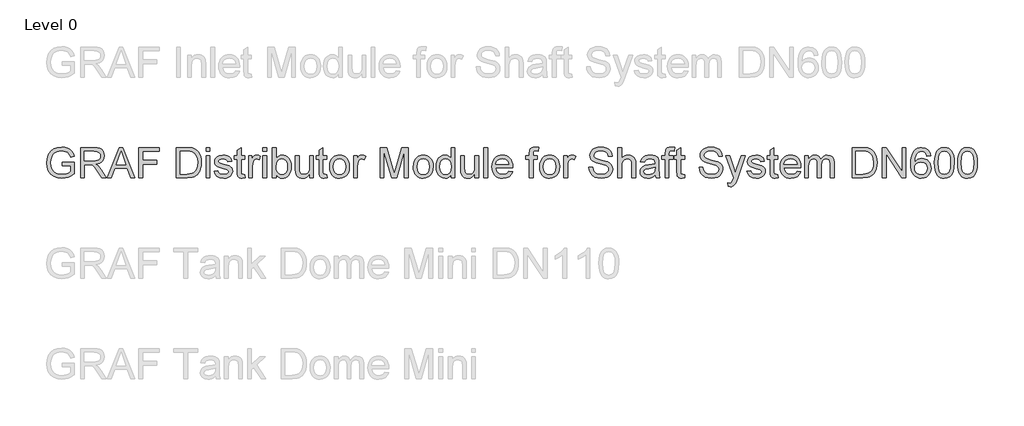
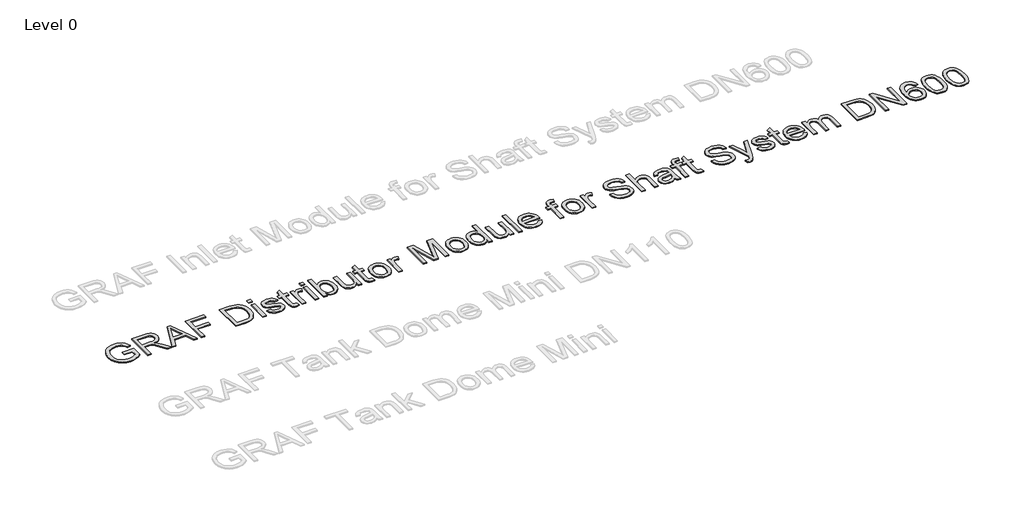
# One storey, part 11 of 25: 1 proxy.
"""IFC4 building model written with IfcOpenShell, lengths in millimetres."""

from ifc_helpers import new_model, si_unit, origin, origin_with_axes, place, context, project, spatial, polyline, outline, extrude, element, save

model = new_model("IFC4")

# Units and contexts
model_context = context("Model", 3, world=origin())
ifc_project = project(units=[si_unit("LENGTHUNIT", "METRE", prefix="MILLI")], contexts=[model_context])

# Site, building, storey
site = spatial("IfcSite", under=ifc_project)
building = spatial("IfcBuilding", under=site)
storey = spatial("IfcBuildingStorey", under=building, Name="Level 0", Elevation=0.0)

# Proxy
placement = place(None, origin())
element("IfcBuildingElementProxy", 1, Name="300mm Arial", ObjectType="300mm Arial", at=placement, inside=storey, context=model_context, shape_type="SweptSolid", body=[
    extrude(outline(polyline([(-15240.9940387, -83.2545597), (-15240.9940387, -45.5834434), (-15118.5629107, -45.5834434), (-15118.5629107, -158.2289103), (-15148.3153671, -178.9222726), (-15179.0059225, -193.7663111), (-15210.5610007, -202.7058436), (-15242.9070251, -205.6856877), (-15285.1674693, -200.949207), (-15323.3628175, -186.739765), (-15355.0926395, -163.5540022), (-15377.9565055, -131.8885595), (-15391.7796715, -93.9047435), (-15396.3873935, -51.7638609), (-15391.7980656, -9.3194757), (-15378.0300819, 30.1634594), (-15355.6536596, 63.282036), (-15325.2390156, 86.6333457), (-15288.1932987, 100.4841028), (-15245.9236575, 105.1010218), (-15214.8928112, 102.4246803), (-15186.9889618, 94.3956557), (-15163.4904994, 81.5933623), (-15145.6758138, 64.5972141), (-15132.4964413, 42.5886738), (-15122.9039183, 14.7492038), (-15157.6319786, 4.9635427), (-15165.3850917, 24.8199734), (-15174.8120678, 39.8019677), (-15187.2832674, 51.0959449), (-15204.169051, 59.8883246), (-15224.3013932, 65.5445103), (-15246.5122687, 67.4299055), (-15272.5123287, 65.3973575), (-15294.7415982, 59.2997134), (-15313.1173039, 49.9003284), (-15327.5566722, 37.9625577), (-15346.9440533, 8.9366683), (-15355.7732212, -19.50061), (-15358.7162772, -50.2187566), (-15355.175413, -86.2436009), (-15344.5528204, -115.8856927), (-15327.1703961, -138.9334997), (-15303.3500369, -155.1754898), (-15275.4737787, -164.804801), (-15245.9236575, -168.0145714), (-15219.831627, -165.5957473), (-15194.3833899, -158.3392749), (-15172.2828791, -148.3420817), (-15156.234027, -137.701095), (-15156.234027, -83.2545597), (-15240.9940387, -83.2545597)])), origin_with_axes(), (0.0, 0.0, 1.0), 10.0),
    extrude(outline(polyline([(-15057.3473467, -200.9767982), (-15057.3473467, 100.3921323), (-14927.4850024, 100.3921323), (-14892.5821982, 98.3595842), (-14867.1891434, 92.2619402), (-14848.6294968, 81.0047511), (-14834.2269167, 63.4935682), (-14824.9838815, 41.7793334), (-14821.9028698, 17.912989), (-14827.0072325, -11.7750881), (-14842.3203206, -36.3863935), (-14853.9200997, -46.4157764), (-14868.3019865, -54.4310054), (-14905.4120827, -64.4190016), (-14884.0013506, -80.532233), (-14853.467145, -119.3069952), (-14803.2144645, -200.9767982), (-14846.9924219, -200.9767982), (-14886.2086426, -138.5104354), (-14914.5355562, -97.1604991), (-14934.4379722, -77.6259652), (-14952.3538253, -70.4522663), (-14974.2060158, -69.1278911), (-15019.6762304, -69.1278911), (-15019.6762304, -200.9767982), (-15057.3473467, -200.9767982)]), holes=[polyline([(-15019.6762304, -31.4567748), (-14935.3576771, -31.4567748), (-14911.1418448, -30.1232026), (-14892.3522719, -26.1224859), (-14878.2072092, -19.1879103), (-14867.9249074, -9.0527613), (-14861.6617165, 3.2069062), (-14859.5739861, 16.5150374), (-14863.5563087, 34.890743), (-14875.5032765, 49.6979933), (-14896.058683, 59.4652603), (-14925.8663217, 62.721016), (-15019.6762304, 62.721016), (-15019.6762304, -31.4567748)])]), origin_with_axes(), (0.0, 0.0, 1.0), 10.0),
    extrude(outline(polyline([(-14791.0743586, -200.9767982), (-14670.7769462, 100.3921323), (-14638.6976362, 100.3921323), (-14518.4002238, -200.9767982), (-14558.2050557, -200.9767982), (-14592.7123868, -106.7990074), (-14716.835772, -106.7990074), (-14751.2695268, -200.9767982), (-14791.0743586, -200.9767982)]), holes=[polyline([(-14703.003409, -69.1278911), (-14606.4711735, -69.1278911), (-14633.6208647, 4.9635427), (-14654.7372912, 62.721016), (-14673.499273, 11.4382658), (-14703.003409, -69.1278911)])]), origin_with_axes(), (0.0, 0.0, 1.0), 10.0),
    extrude(outline(polyline([(-14478.1539335, -200.9767982), (-14478.1539335, 100.3921323), (-14275.6716834, 100.3921323), (-14275.6716834, 62.721016), (-14440.4828172, 62.721016), (-14440.4828172, -26.7478853), (-14299.2161311, -26.7478853), (-14299.2161311, -64.4190016), (-14440.4828172, -64.4190016), (-14440.4828172, -200.9767982), (-14478.1539335, -200.9767982)])), origin_with_axes(), (0.0, 0.0, 1.0), 10.0),
    extrude(outline(polyline([(-14106.15166, -200.9767982), (-14106.15166, 100.3921323), (-14002.1882082, 100.3921323), (-13948.4038605, 96.0511247), (-13924.3811662, 87.6818093), (-13904.1108683, 74.4932398), (-13883.2703532, 51.5374033), (-13868.4263147, 22.9897605), (-13859.5419645, -10.5978657), (-13856.5805145, -48.6736522), (-13858.5854714, -81.0196766), (-13864.600342, -109.484546), (-13873.7606037, -133.7187724), (-13885.2017337, -153.372868), (-13898.3719091, -168.8882911), (-13912.719307, -180.7065002), (-13929.1912233, -189.4712888), (-13948.7349543, -195.8264502), (-13997.185013, -200.9767982), (-14106.15166, -200.9767982)]), holes=[polyline([(-14068.4805437, -163.3056819), (-14001.8203262, -163.3056819), (-13974.2475706, -161.9445185), (-13953.3334792, -157.8610283), (-13937.5513416, -151.2943347), (-13925.3744476, -142.4835609), (-13912.2870456, -126.1771915), (-13902.4553993, -105.069962), (-13896.3025729, -79.069902), (-13894.2516308, -48.085041), (-13898.2707416, -7.0294103), (-13910.328074, 23.2840661), (-13928.1427596, 44.106187), (-13949.4339301, 56.6877512), (-13971.1021796, 61.2126998), (-14002.8503958, 62.721016), (-14068.4805437, 62.721016), (-14068.4805437, -163.3056819)])]), origin_with_axes(), (0.0, 0.0, 1.0), 10.0),
    extrude(outline(polyline([(-13809.4916191, 62.721016), (-13809.4916191, 100.3921323), (-13771.8205028, 100.3921323), (-13771.8205028, 62.721016), (-13809.4916191, 62.721016)])), origin_with_axes(), (0.0, 0.0, 1.0), 10.0),
    extrude(outline(polyline([(-13809.4916191, -200.9767982), (-13809.4916191, 20.3410101), (-13771.8205028, 20.3410101), (-13771.8205028, -200.9767982), (-13809.4916191, -200.9767982)])), origin_with_axes(), (0.0, 0.0, 1.0), 10.0),
    extrude(outline(polyline([(-13729.440497, -135.0523446), (-13691.7693806, -130.3434551), (-13685.8280864, -146.4566865), (-13674.3317741, -158.3024867), (-13657.2068672, -165.5865502), (-13634.3797894, -168.0145714), (-13611.8286231, -165.7888853), (-13595.9729091, -159.1118271), (-13586.5919182, -149.4365307), (-13583.4649213, -138.2161298), (-13586.6103123, -128.6144097), (-13596.0464855, -121.293558), (-13634.8212478, -110.5514038), (-13691.5486515, -92.1205158), (-13705.9052463, -82.8590866), (-13716.3071097, -70.5994191), (-13722.625483, -56.1232626), (-13724.7316074, -40.2123663), (-13723.0393502, -25.6166481), (-13717.9625787, -12.1429701), (-13709.9611453, -0.324761), (-13699.4949025, 9.3045503), (-13675.5457847, 20.4513747), (-13643.1353809, 25.0498997), (-13618.6160459, 23.2012926), (-13597.2972843, 17.6554716), (-13580.1539833, 8.9550624), (-13568.1610303, -2.357309), (-13560.2147792, -17.118574), (-13555.211584, -36.1656643), (-13592.8827003, -40.8745539), (-13597.6375751, -29.0195566), (-13607.0461572, -20.0892211), (-13621.2004169, -14.4882178), (-13640.1923249, -12.6212166), (-13661.8237862, -14.4054443), (-13676.2447605, -19.7581274), (-13684.3565584, -27.4836493), (-13687.0604911, -36.3863935), (-13682.5723308, -47.349277), (-13668.5192386, -55.6634101), (-13636.0720466, -63.6832376), (-13580.7793827, -81.4151497), (-13566.1744675, -89.8948297), (-13555.1012194, -101.5015067), (-13548.1206586, -116.2719688), (-13545.793805, -134.2430043), (-13548.5253288, -152.821045), (-13556.7199002, -170.2954398), (-13570.0648196, -185.2958281), (-13588.2473872, -196.4518496), (-13610.2099423, -203.3772282), (-13634.8948242, -205.6856877), (-13672.8786402, -201.2343156), (-13700.5985485, -187.8801991), (-13719.1030129, -165.7704912), (-13729.440497, -135.0523446)])), origin_with_axes(), (0.0, 0.0, 1.0), 10.0),
    extrude(outline(polyline([(-13423.362677, -169.5596758), (-13418.6537874, -202.0804442), (-13446.8335483, -205.6856877), (-13464.9149483, -204.1221892), (-13478.3978234, -199.4316938), (-13487.9259671, -192.2028126), (-13494.1431728, -183.0241568), (-13497.5644754, -167.2604133), (-13498.7049096, -140.276269), (-13498.7049096, -17.3301062), (-13526.9582468, -17.3301062), (-13526.9582468, 20.3410101), (-13498.7049096, 20.3410101), (-13498.7049096, 74.1253578), (-13461.0337933, 96.2718539), (-13461.0337933, 20.3410101), (-13423.362677, 20.3410101), (-13423.362677, -17.3301062), (-13461.0337933, -17.3301062), (-13461.0337933, -139.172623), (-13459.0472305, -158.5967923), (-13452.6092956, -165.4761856), (-13439.770214, -168.0145714), (-13423.362677, -169.5596758)])), origin_with_axes(), (0.0, 0.0, 1.0), 10.0),
    extrude(outline(polyline([(-13385.6915607, -200.9767982), (-13385.6915607, 20.3410101), (-13352.7293339, 20.3410101), (-13352.7293339, -12.4004875), (-13340.5524399, 6.5822235), (-13329.332039, 17.7658362), (-13318.0748499, 23.2288838), (-13305.7875913, 25.0498997), (-13287.0256096, 22.1436319), (-13267.9693222, 13.4248286), (-13280.5508864, -20.3467385), (-13293.7946383, -14.5525971), (-13307.0383901, -12.6212166), (-13318.2863821, -14.4790207), (-13328.3387576, -20.052433), (-13336.4597527, -28.918389), (-13341.9136032, -40.6538247), (-13346.4937341, -61.6966748), (-13348.0204444, -84.6525113), (-13348.0204444, -200.9767982), (-13385.6915607, -200.9767982)])), origin_with_axes(), (0.0, 0.0, 1.0), 10.0),
    extrude(outline(polyline([(-13244.4248745, 62.721016), (-13244.4248745, 100.3921323), (-13206.7537582, 100.3921323), (-13206.7537582, 62.721016), (-13244.4248745, 62.721016)])), origin_with_axes(), (0.0, 0.0, 1.0), 10.0),
    extrude(outline(polyline([(-13244.4248745, -200.9767982), (-13244.4248745, 20.3410101), (-13206.7537582, 20.3410101), (-13206.7537582, -200.9767982), (-13244.4248745, -200.9767982)])), origin_with_axes(), (0.0, 0.0, 1.0), 10.0),
    extrude(outline(polyline([(-13112.5759674, -200.9767982), (-13150.2470837, -200.9767982), (-13150.2470837, 100.3921323), (-13112.5759674, 100.3921323), (-13112.5759674, -11.3704179), (-13100.1875413, 4.5634711), (-13086.1988284, 15.9448203), (-13070.6098288, 22.7736298), (-13053.4205426, 25.0498997), (-13034.0147674, 22.9989575), (-13015.6758499, 16.8461312), (-12999.4522539, 6.9776966), (-12986.3924431, -6.2200699), (-12976.1561266, -22.6184099), (-12968.4030135, -42.0885645), (-12963.51938, -63.8211933), (-12961.8915022, -87.0069561), (-12963.5768616, -113.7611742), (-12968.6329398, -137.2964248), (-12977.0597367, -157.612708), (-12988.8572525, -174.7100237), (-13003.01841, -188.2618767), (-13018.5361324, -197.9417717), (-13035.4104197, -203.7497087), (-13053.6412718, -205.6856877), (-13071.3961766, -203.1886887), (-13087.1369275, -195.6976915), (-13100.8635244, -183.2126963), (-13112.5759674, -165.733703), (-13112.5759674, -200.9767982)]), holes=[polyline([(-13112.5759674, -88.7727896), (-13110.0007935, -120.189912), (-13102.2752716, -141.4534914), (-13093.1471996, -153.0739639), (-13082.5384025, -161.3743014), (-13070.4488805, -166.3545039), (-13056.8786334, -168.0145714), (-13035.1368075, -163.1217409), (-13016.5587667, -148.4432493), (-13003.8116556, -124.0710671), (-12999.5626185, -90.0971648), (-13003.6369116, -55.6266219), (-13015.8597909, -31.5303512), (-13033.8584175, -17.3485003), (-13055.2599526, -12.6212166), (-13077.0017785, -17.5140472), (-13095.5798193, -32.1925388), (-13108.3269304, -56.1232626), (-13112.5759674, -88.7727896)])]), origin_with_axes(), (0.0, 0.0, 1.0), 10.0),
    extrude(outline(polyline([(-12778.2448102, -200.9767982), (-12778.2448102, -162.9377999), (-12791.8748381, -181.6400008), (-12807.7489462, -194.9987158), (-12825.8671345, -203.0139447), (-12846.2294029, -205.6856877), (-12864.5775174, -203.8094895), (-12881.6564391, -198.180895), (-12895.9854428, -189.7196091), (-12906.0838035, -179.3453369), (-12917.3042044, -151.6070344), (-12919.5114964, -116.5846685), (-12919.5114964, 20.3410101), (-12881.8403801, 20.3410101), (-12881.8403801, -98.8527563), (-12879.5595117, -137.2596366), (-12874.0688729, -150.0711271), (-12864.6602909, -159.8108029), (-12851.959165, -165.9636293), (-12836.5908947, -168.0145714), (-12820.3397075, -165.917644), (-12805.1369841, -159.6268619), (-12792.6014051, -149.7216392), (-12784.3516513, -136.78139), (-12779.7715205, -119.0586749), (-12778.2448102, -94.8060544), (-12778.2448102, 20.3410101), (-12740.5736939, 20.3410101), (-12740.5736939, -200.9767982), (-12778.2448102, -200.9767982)])), origin_with_axes(), (0.0, 0.0, 1.0), 10.0),
    extrude(outline(polyline([(-12608.7247868, -169.5596758), (-12604.0158973, -202.0804442), (-12632.1956581, -205.6856877), (-12650.2770582, -204.1221892), (-12663.7599333, -199.4316938), (-12673.288077, -192.2028126), (-12679.5052827, -183.0241568), (-12682.9265853, -167.2604133), (-12684.0670195, -140.276269), (-12684.0670195, -17.3301062), (-12712.3203567, -17.3301062), (-12712.3203567, 20.3410101), (-12684.0670195, 20.3410101), (-12684.0670195, 74.1253578), (-12646.3959032, 96.2718539), (-12646.3959032, 20.3410101), (-12608.7247868, 20.3410101), (-12608.7247868, -17.3301062), (-12646.3959032, -17.3301062), (-12646.3959032, -139.172623), (-12644.4093404, -158.5967923), (-12637.9714055, -165.4761856), (-12625.1323238, -168.0145714), (-12608.7247868, -169.5596758)])), origin_with_axes(), (0.0, 0.0, 1.0), 10.0),
    extrude(outline(polyline([(-12580.4714496, -90.317894), (-12578.4343031, -61.6552881), (-12572.3228634, -36.9566106), (-12562.1371307, -16.2218617), (-12547.8771048, 0.5489588), (-12533.52051, 11.2681204), (-12517.673993, 18.9246644), (-12500.337554, 23.5185909), (-12481.5111929, 25.0498997), (-12460.7281594, 23.1851978), (-12441.9362873, 17.5910922), (-12425.1355764, 8.2675829), (-12410.3260268, -4.7853302), (-12398.238804, -21.1261885), (-12389.6050735, -40.3135338), (-12384.4248351, -62.3473661), (-12382.698089, -87.2276853), (-12385.7515096, -125.2850777), (-12394.9117713, -154.2557848), (-12409.9121596, -175.9516255), (-12430.4859602, -192.1844185), (-12454.9225217, -202.3103704), (-12481.5111929, -205.6856877), (-12502.597729, -203.8278836), (-12521.5643451, -198.2544714), (-12538.4110413, -188.965451), (-12553.1378174, -175.9608225), (-12565.0962815, -159.461315), (-12573.6380416, -139.6876578), (-12578.7630976, -116.6398508), (-12580.4714496, -90.317894)]), holes=[polyline([(-12542.8003333, -90.2443176), (-12538.4409317, -124.3377815), (-12525.3627267, -148.6271903), (-12505.68104, -163.1677261), (-12481.5111929, -168.0145714), (-12457.4517104, -163.140135), (-12437.8068119, -148.5168257), (-12424.728607, -123.9055202), (-12420.3692053, -89.0670952), (-12424.7561981, -55.9669127), (-12437.9171765, -32.0085978), (-12457.5896662, -17.4680619), (-12481.5111929, -12.6212166), (-12505.68104, -17.4496678), (-12525.3627267, -31.9350214), (-12538.4409317, -56.1692478), (-12542.8003333, -90.2443176)])]), origin_with_axes(), (0.0, 0.0, 1.0), 10.0),
    extrude(outline(polyline([(-12340.3180832, -200.9767982), (-12340.3180832, 20.3410101), (-12307.3558564, 20.3410101), (-12307.3558564, -12.4004875), (-12295.1789624, 6.5822235), (-12283.9585615, 17.7658362), (-12272.7013725, 23.2288838), (-12260.4141138, 25.0498997), (-12241.6521321, 22.1436319), (-12222.5958447, 13.4248286), (-12235.1774089, -20.3467385), (-12248.4211608, -14.5525971), (-12261.6649126, -12.6212166), (-12272.9129046, -14.4790207), (-12282.9652801, -20.052433), (-12291.0862752, -28.918389), (-12296.5401257, -40.6538247), (-12301.1202566, -61.6966748), (-12302.6469669, -84.6525113), (-12302.6469669, -200.9767982), (-12340.3180832, -200.9767982)])), origin_with_axes(), (0.0, 0.0, 1.0), 10.0),
    extrude(outline(polyline([(-12076.620269, -200.9767982), (-12076.620269, 100.3921323), (-12011.7994615, 100.3921323), (-11950.1424391, -112.0229317), (-11937.7080276, -156.3895004), (-11924.2435466, -108.3441118), (-11863.6165938, 100.3921323), (-11798.7957863, 100.3921323), (-11798.7957863, -200.9767982), (-11836.4669026, -200.9767982), (-11836.4669026, 62.721016), (-11912.1770172, -200.9767982), (-11963.2390381, -200.9767982), (-12038.9491527, 62.721016), (-12038.9491527, -200.9767982), (-12076.620269, -200.9767982)])), origin_with_axes(), (0.0, 0.0, 1.0), 10.0),
    extrude(outline(polyline([(-11746.9980013, -90.317894), (-11744.9608548, -61.6552881), (-11738.8494152, -36.9566106), (-11728.6636824, -16.2218617), (-11714.4036566, 0.5489588), (-11700.0470617, 11.2681204), (-11684.2005448, 18.9246644), (-11666.8641057, 23.5185909), (-11648.0377446, 25.0498997), (-11627.2547112, 23.1851978), (-11608.462839, 17.5910922), (-11591.6621281, 8.2675829), (-11576.8525786, -4.7853302), (-11564.7653558, -21.1261885), (-11556.1316252, -40.3135338), (-11550.9513869, -62.3473661), (-11549.2246407, -87.2276853), (-11552.2780613, -125.2850777), (-11561.438323, -154.2557848), (-11576.4387113, -175.9516255), (-11597.0125119, -192.1844185), (-11621.4490734, -202.3103704), (-11648.0377446, -205.6856877), (-11669.1242808, -203.8278836), (-11688.0908969, -198.2544714), (-11704.937593, -188.965451), (-11719.6643691, -175.9608225), (-11731.6228332, -159.461315), (-11740.1645933, -139.6876578), (-11745.2896493, -116.6398508), (-11746.9980013, -90.317894)]), holes=[polyline([(-11709.326885, -90.2443176), (-11704.9674834, -124.3377815), (-11691.8892785, -148.6271903), (-11672.2075917, -163.1677261), (-11648.0377446, -168.0145714), (-11623.9782622, -163.140135), (-11604.3333636, -148.5168257), (-11591.2551587, -123.9055202), (-11586.895757, -89.0670952), (-11591.2827498, -55.9669127), (-11604.4437282, -32.0085978), (-11624.1162179, -17.4680619), (-11648.0377446, -12.6212166), (-11672.2075917, -17.4496678), (-11691.8892785, -31.9350214), (-11704.9674834, -56.1692478), (-11709.326885, -90.2443176)])]), origin_with_axes(), (0.0, 0.0, 1.0), 10.0),
    extrude(outline(polyline([(-11370.2868383, -200.9767982), (-11370.2868383, -165.4393974), (-11381.5578229, -183.0471494), (-11395.2108435, -195.6241151), (-11411.2458999, -203.1702946), (-11429.6629923, -205.6856877), (-11454.0167804, -202.043656), (-11476.3104293, -191.1175607), (-11495.1827756, -173.6707571), (-11509.2726561, -150.4666002), (-11518.0466416, -122.4431893), (-11520.9713035, -90.5386232), (-11518.2765679, -59.0295303), (-11510.192361, -30.573858), (-11496.72788, -6.790287), (-11477.8923219, 10.7025018), (-11455.1112293, 21.4630502), (-11429.8101451, 25.0498997), (-11411.3792571, 22.4839227), (-11395.0820848, 14.785992), (-11381.2681158, 2.986177), (-11370.2868383, -11.8854527), (-11370.2868383, 100.3921323), (-11332.615722, 100.3921323), (-11332.615722, -200.9767982), (-11370.2868383, -200.9767982)]), holes=[polyline([(-11483.3001872, -90.3914704), (-11479.0511502, -124.4665402), (-11466.304039, -148.7007667), (-11447.7811806, -163.1861202), (-11426.2049016, -168.0145714), (-11404.6378196, -163.4068494), (-11386.5840107, -149.5836835), (-11374.3611314, -126.2875561), (-11370.2868383, -93.26095), (-11374.4347078, -57.1533322), (-11386.8783163, -32.1189624), (-11405.3919777, -17.4956531), (-11427.7500059, -12.6212166), (-11449.5470141, -17.302515), (-11467.407685, -31.3464102), (-11479.3270617, -55.470272), (-11483.3001872, -90.3914704)])]), origin_with_axes(), (0.0, 0.0, 1.0), 10.0),
    extrude(outline(polyline([(-11134.8423614, -200.9767982), (-11134.8423614, -162.9377999), (-11148.4723893, -181.6400008), (-11164.3464974, -194.9987158), (-11182.4646856, -203.0139447), (-11202.8269541, -205.6856877), (-11221.1750686, -203.8094895), (-11238.2539902, -198.180895), (-11252.5829939, -189.7196091), (-11262.6813547, -179.3453369), (-11273.9017555, -151.6070344), (-11276.1090475, -116.5846685), (-11276.1090475, 20.3410101), (-11238.4379312, 20.3410101), (-11238.4379312, -98.8527563), (-11236.1570628, -137.2596366), (-11230.6664241, -150.0711271), (-11221.257842, -159.8108029), (-11208.5567162, -165.9636293), (-11193.1884458, -168.0145714), (-11176.9372587, -165.917644), (-11161.7345352, -159.6268619), (-11149.1989562, -149.7216392), (-11140.9492025, -136.78139), (-11136.3690717, -119.0586749), (-11134.8423614, -94.8060544), (-11134.8423614, 20.3410101), (-11097.1712451, 20.3410101), (-11097.1712451, -200.9767982), (-11134.8423614, -200.9767982)])), origin_with_axes(), (0.0, 0.0, 1.0), 10.0),
    extrude(outline(polyline([(-11045.3734601, -200.9767982), (-11045.3734601, 100.3921323), (-11007.7023438, 100.3921323), (-11007.7023438, -200.9767982), (-11045.3734601, -200.9767982)])), origin_with_axes(), (0.0, 0.0, 1.0), 10.0),
    extrude(outline(polyline([(-10796.243773, -135.0523446), (-10759.3084207, -139.7612342), (-10772.6165519, -167.5915071), (-10793.85254, -188.3952339), (-10822.5381386, -201.3630743), (-10858.195101, -205.6856877), (-10881.5694033, -203.8209859), (-10902.3961227, -198.2268803), (-10920.6752594, -188.9033709), (-10936.4068132, -175.8504579), (-10949.0573553, -159.4314246), (-10958.0934568, -140.0095545), (-10963.5151177, -117.5848477), (-10965.322338, -92.157304), (-10963.4967236, -65.8675369), (-10958.0198804, -42.6955698), (-10948.8918084, -22.6414025), (-10936.1125076, -5.7050351), (-10920.4223405, 7.7502488), (-10902.5616696, 17.361166), (-10882.530495, 23.1277162), (-10860.3288166, 25.0498997), (-10838.8422088, 23.1323148), (-10819.4111417, 17.3795601), (-10802.0356152, 7.7916356), (-10786.7156293, -5.6314587), (-10774.2099408, -22.5310379), (-10765.2773061, -42.548417), (-10759.9177252, -65.6835959), (-10758.1311983, -91.9365748), (-10758.3519275, -102.0901179), (-10927.6512217, -102.0901179), (-10921.1305133, -130.2882728), (-10905.9829722, -151.0184232), (-10884.1215846, -163.7655344), (-10857.459337, -168.0145714), (-10837.4097683, -166.0464027), (-10820.5239847, -160.1418967), (-10806.8019863, -149.9331713), (-10796.243773, -135.0523446)]), holes=[polyline([(-10927.6512217, -64.4190016), (-10795.8023146, -64.4190016), (-10800.8974802, -44.5165856), (-10810.8854764, -30.2795524), (-10832.8480315, -17.0358006), (-10860.4759694, -12.6212166), (-10885.8690241, -16.1436868), (-10906.865889, -26.7110971), (-10921.4616071, -43.1830134), (-10927.6512217, -64.4190016)])]), origin_with_axes(), (0.0, 0.0, 1.0), 10.0),
    extrude(outline(polyline([(-10593.3200645, -200.9767982), (-10593.3200645, -17.3301062), (-10626.2822912, -17.3301062), (-10626.2822912, 20.3410101), (-10593.3200645, 20.3410101), (-10593.3200645, 42.634659), (-10589.3469389, 74.0517814), (-10581.7685698, 86.5781634), (-10570.0699224, 96.4925831), (-10553.6991736, 102.9489121), (-10532.1045005, 105.1010218), (-10497.7443221, 100.9807435), (-10503.2625521, 65.6640719), (-10524.9675898, 67.4299055), (-10539.2873964, 65.866407), (-10548.6959785, 61.1759116), (-10553.9107057, 52.217985), (-10555.6489482, 37.8521931), (-10555.6489482, 20.3410101), (-10513.2689423, 20.3410101), (-10513.2689423, -17.3301062), (-10555.6489482, -17.3301062), (-10555.6489482, -200.9767982), (-10593.3200645, -200.9767982)])), origin_with_axes(), (0.0, 0.0, 1.0), 10.0),
    extrude(outline(polyline([(-10489.7244946, -90.317894), (-10487.6873481, -61.6552881), (-10481.5759084, -36.9566106), (-10471.3901757, -16.2218617), (-10457.1301499, 0.5489588), (-10442.773555, 11.2681204), (-10426.9270381, 18.9246644), (-10409.590599, 23.5185909), (-10390.7642379, 25.0498997), (-10369.9812045, 23.1851978), (-10351.1893323, 17.5910922), (-10334.3886214, 8.2675829), (-10319.5790719, -4.7853302), (-10307.4918491, -21.1261885), (-10298.8581185, -40.3135338), (-10293.6778801, -62.3473661), (-10291.951134, -87.2276853), (-10295.0045546, -125.2850777), (-10304.1648163, -154.2557848), (-10319.1652046, -175.9516255), (-10339.7390052, -192.1844185), (-10364.1755667, -202.3103704), (-10390.7642379, -205.6856877), (-10411.850774, -203.8278836), (-10430.8173902, -198.2544714), (-10447.6640863, -188.965451), (-10462.3908624, -175.9608225), (-10474.3493265, -159.461315), (-10482.8910866, -139.6876578), (-10488.0161426, -116.6398508), (-10489.7244946, -90.317894)]), holes=[polyline([(-10452.0533783, -90.2443176), (-10447.6939767, -124.3377815), (-10434.6157718, -148.6271903), (-10414.934085, -163.1677261), (-10390.7642379, -168.0145714), (-10366.7047554, -163.140135), (-10347.0598569, -148.5168257), (-10333.981652, -123.9055202), (-10329.6222503, -89.0670952), (-10334.0092431, -55.9669127), (-10347.1702215, -32.0085978), (-10366.8427112, -17.4680619), (-10390.7642379, -12.6212166), (-10414.934085, -17.4496678), (-10434.6157718, -31.9350214), (-10447.6939767, -56.1692478), (-10452.0533783, -90.2443176)])]), origin_with_axes(), (0.0, 0.0, 1.0), 10.0),
    extrude(outline(polyline([(-10249.5711282, -200.9767982), (-10249.5711282, 20.3410101), (-10216.6089014, 20.3410101), (-10216.6089014, -12.4004875), (-10204.4320074, 6.5822235), (-10193.2116065, 17.7658362), (-10181.9544175, 23.2288838), (-10169.6671588, 25.0498997), (-10150.9051771, 22.1436319), (-10131.8488897, 13.4248286), (-10144.430454, -20.3467385), (-10157.6742058, -14.5525971), (-10170.9179576, -12.6212166), (-10182.1659496, -14.4790207), (-10192.2183251, -20.052433), (-10200.3393202, -28.918389), (-10205.7931708, -40.6538247), (-10210.3733016, -61.6966748), (-10211.9000119, -84.6525113), (-10211.9000119, -200.9767982), (-10249.5711282, -200.9767982)])), origin_with_axes(), (0.0, 0.0, 1.0), 10.0),
    extrude(outline(polyline([(-9999.9999826, -97.3812283), (-9962.3288663, -97.3812283), (-9958.0062529, -118.2861227), (-9950.1887605, -135.0891328), (-9937.9934724, -148.4248552), (-9920.5374717, -158.9278861), (-9899.200316, -165.7429001), (-9875.3615627, -168.0145714), (-9854.3738949, -166.2947231), (-9835.9981892, -161.1351781), (-9821.1081654, -152.9681978), (-9810.5775433, -142.2260435), (-9804.3143524, -129.8927997), (-9802.226622, -116.9525505), (-9803.7901205, -104.3433951), (-9808.480616, -93.444891), (-9818.0087596, -84.1466736), (-9834.0852028, -76.3383782), (-9888.9364083, -61.9541922), (-9924.9428586, -52.4352456), (-9947.9814685, -43.3761514), (-9966.7342532, -30.7026167), (-9980.0239903, -15.3435434), (-9987.9426503, 2.3699747), (-9990.5822036, 22.1068437), (-9987.3172509, 44.1705664), (-9977.5223927, 64.7443669), (-9961.4551466, 82.1819735), (-9939.3730298, 94.8371141), (-9912.8671321, 102.5350449), (-9883.528543, 105.1010218), (-9851.7435386, 102.4154832), (-9823.9316598, 94.3588675), (-9801.0861879, 81.0967216), (-9784.2004043, 62.7945924), (-9773.5134323, 40.592914), (-9769.2643953, 15.6321206), (-9806.9355116, 15.6321206), (-9813.8516931, 38.1097105), (-9828.2726673, 54.3333065), (-9850.8054395, 64.1557557), (-9882.057015, 67.4299055), (-9914.0443545, 64.1925439), (-9935.9885155, 54.4804593), (-9948.6804443, 40.1882438), (-9952.9110873, 23.2104897), (-9949.912849, 8.7343332), (-9940.9181342, -2.909132), (-9919.6545549, -13.3201924), (-9879.4082646, -23.9519821), (-9837.8743874, -34.0503429), (-9812.7480471, -42.8611167), (-9791.2729356, -56.5279328), (-9776.2909414, -73.3953223), (-9767.4893646, -93.2793441), (-9764.5555057, -115.9960573), (-9767.930823, -139.2186082), (-9778.056775, -161.0616017), (-9794.5194942, -179.8603717), (-9816.9051136, -193.9502521), (-9843.8248786, -202.7518288), (-9873.8900347, -205.6856877), (-9910.7977959, -202.5219026), (-9941.1756516, -193.0305471), (-9965.3730899, -177.1748331), (-9983.7395985, -154.9179724), (-9995.5302164, -127.8050693), (-9999.9999826, -97.3812283)])), origin_with_axes(), (0.0, 0.0, 1.0), 10.0),
    extrude(outline(polyline([(-9712.7577208, -200.9767982), (-9712.7577208, 100.3921323), (-9675.0866045, 100.3921323), (-9675.0866045, -10.4139247), (-9661.249643, 5.1014985), (-9645.7112272, 16.1839436), (-9628.4713572, 22.8334106), (-9609.530033, 25.0498997), (-9586.7765316, 22.6310755), (-9567.2236035, 15.3746032), (-9551.827742, 3.8506997), (-9541.5454403, -11.3704179), (-9535.7512988, -32.2845093), (-9533.8199184, -60.8873344), (-9533.8199184, -200.9767982), (-9571.4910347, -200.9767982), (-9571.4910347, -64.7868836), (-9574.4892729, -41.2056477), (-9583.4839877, -25.0556281), (-9597.9785383, -15.7298195), (-9617.4762841, -12.6212166), (-9633.3963774, -14.718144), (-9648.3415835, -21.0089261), (-9660.7208126, -30.8865577), (-9668.9429752, -43.7440334), (-9673.5506972, -60.8321521), (-9675.0866045, -83.4017125), (-9675.0866045, -200.9767982), (-9712.7577208, -200.9767982)])), origin_with_axes(), (0.0, 0.0, 1.0), 10.0),
    extrude(outline(polyline([(-9340.7554473, -172.7234609), (-9358.7540739, -188.1561106), (-9377.2861294, -198.2544714), (-9396.7746781, -203.8278836), (-9417.6427843, -205.6856877), (-9449.124286, -201.2159215), (-9472.346837, -187.8066228), (-9486.6666436, -167.4443543), (-9491.4399125, -142.1156789), (-9489.6372907, -126.4990883), (-9484.2294254, -112.3172373), (-9475.8877012, -100.1771315), (-9465.2835027, -90.685776), (-9438.9063636, -78.324941), (-9406.3120188, -72.6595583), (-9367.7947739, -66.6998699), (-9340.9761765, -59.710112), (-9340.7554473, -51.3224025), (-9343.3490154, -34.5101954), (-9351.1297196, -23.5105237), (-9368.5305379, -15.3435434), (-9392.7739614, -12.6212166), (-9415.2147631, -14.4330355), (-9430.8865361, -19.868492), (-9441.5735081, -29.9208675), (-9449.0599067, -45.5834434), (-9486.731023, -40.8745539), (-9480.1919205, -20.2731621), (-9470.4338506, -4.0863544), (-9456.5463053, 8.2928748), (-9437.6187766, 17.4715306), (-9414.4698021, 23.1553074), (-9387.9179191, 25.0498997), (-9362.451288, 23.3760366), (-9342.2637635, 18.3544473), (-9327.0426459, 10.8036694), (-9316.4752356, 1.5422402), (-9309.4670836, -9.9080869), (-9304.923741, -24.0255585), (-9303.084331, -56.9877853), (-9303.084331, -103.8559515), (-9301.1713446, -169.3021584), (-9293.6665519, -200.9767982), (-9331.3376682, -200.9767982), (-9340.7554473, -172.7234609)]), holes=[polyline([(-9340.7554473, -97.3812283), (-9401.5295529, -108.932723), (-9433.9399567, -115.0395641), (-9448.6184483, -124.972378), (-9453.7687962, -139.4669286), (-9450.963696, -150.6689353), (-9442.5483954, -159.8475911), (-9428.7068353, -165.9728263), (-9409.6229568, -168.0145714), (-9389.3894471, -165.7612942), (-9371.5103821, -159.0014625), (-9357.0158315, -149.0410575), (-9346.9358648, -137.1860602), (-9342.4660986, -124.972378), (-9340.9761765, -108.0498062), (-9340.7554473, -97.3812283)])]), origin_with_axes(), (0.0, 0.0, 1.0), 10.0),
    extrude(outline(polyline([(-9241.868767, -200.9767982), (-9241.868767, -17.3301062), (-9274.8309938, -17.3301062), (-9274.8309938, 20.3410101), (-9241.868767, 20.3410101), (-9241.868767, 42.634659), (-9237.8956414, 74.0517814), (-9230.3172723, 86.5781634), (-9218.6186249, 96.4925831), (-9202.2478761, 102.9489121), (-9180.653203, 105.1010218), (-9146.2930246, 100.9807435), (-9151.8112546, 65.6640719), (-9173.5162923, 67.4299055), (-9187.8360989, 65.866407), (-9197.244681, 61.1759116), (-9202.4594083, 52.217985), (-9204.1976507, 37.8521931), (-9204.1976507, 20.3410101), (-9161.8176448, 20.3410101), (-9161.8176448, -17.3301062), (-9204.1976507, -17.3301062), (-9204.1976507, -200.9767982), (-9241.868767, -200.9767982)])), origin_with_axes(), (0.0, 0.0, 1.0), 10.0),
    extrude(outline(polyline([(-9048.8042959, -169.5596758), (-9044.0954064, -202.0804442), (-9072.2751672, -205.6856877), (-9090.3565673, -204.1221892), (-9103.8394424, -199.4316938), (-9113.3675861, -192.2028126), (-9119.5847918, -183.0241568), (-9123.0060943, -167.2604133), (-9124.1465285, -140.276269), (-9124.1465285, -17.3301062), (-9152.3998658, -17.3301062), (-9152.3998658, 20.3410101), (-9124.1465285, 20.3410101), (-9124.1465285, 74.1253578), (-9086.4754122, 96.2718539), (-9086.4754122, 20.3410101), (-9048.8042959, 20.3410101), (-9048.8042959, -17.3301062), (-9086.4754122, -17.3301062), (-9086.4754122, -139.172623), (-9084.4888495, -158.5967923), (-9078.0509145, -165.4761856), (-9065.2118329, -168.0145714), (-9048.8042959, -169.5596758)])), origin_with_axes(), (0.0, 0.0, 1.0), 10.0),
    extrude(outline(polyline([(-8902.8287202, -97.3812283), (-8865.1576039, -97.3812283), (-8860.8349905, -118.2861227), (-8853.0174981, -135.0891328), (-8840.8222099, -148.4248552), (-8823.3662093, -158.9278861), (-8802.0290536, -165.7429001), (-8778.1903003, -168.0145714), (-8757.2026324, -166.2947231), (-8738.8269268, -161.1351781), (-8723.936903, -152.9681978), (-8713.4062809, -142.2260435), (-8707.1430899, -129.8927997), (-8705.0553596, -116.9525505), (-8706.6188581, -104.3433951), (-8711.3093535, -93.444891), (-8720.8374972, -84.1466736), (-8736.9139404, -76.3383782), (-8791.7651459, -61.9541922), (-8827.7715962, -52.4352456), (-8850.8102061, -43.3761514), (-8869.5629908, -30.7026167), (-8882.8527279, -15.3435434), (-8890.7713878, 2.3699747), (-8893.4109412, 22.1068437), (-8890.1459885, 44.1705664), (-8880.3511303, 64.7443669), (-8864.2838842, 82.1819735), (-8842.2017674, 94.8371141), (-8815.6958697, 102.5350449), (-8786.3572806, 105.1010218), (-8754.5722762, 102.4154832), (-8726.7603973, 94.3588675), (-8703.9149254, 81.0967216), (-8687.0291419, 62.7945924), (-8676.3421699, 40.592914), (-8672.0931329, 15.6321206), (-8709.7642492, 15.6321206), (-8716.6804307, 38.1097105), (-8731.1014049, 54.3333065), (-8753.6341771, 64.1557557), (-8784.8857526, 67.4299055), (-8816.8730921, 64.1925439), (-8838.8172531, 54.4804593), (-8851.5091819, 40.1882438), (-8855.7398249, 23.2104897), (-8852.7415866, 8.7343332), (-8843.7468718, -2.909132), (-8822.4832925, -13.3201924), (-8782.2370022, -23.9519821), (-8740.703125, -34.0503429), (-8715.5767847, -42.8611167), (-8694.1016732, -56.5279328), (-8679.119679, -73.3953223), (-8670.3181022, -93.2793441), (-8667.3842433, -115.9960573), (-8670.7595606, -139.2186082), (-8680.8855125, -161.0616017), (-8697.3482318, -179.8603717), (-8719.7338512, -193.9502521), (-8746.6536162, -202.7518288), (-8776.7187723, -205.6856877), (-8813.6265335, -202.5219026), (-8844.0043892, -193.0305471), (-8868.2018274, -177.1748331), (-8886.568336, -154.9179724), (-8898.358954, -127.8050693), (-8902.8287202, -97.3812283)])), origin_with_axes(), (0.0, 0.0, 1.0), 10.0),
    extrude(outline(polyline([(-8615.5864584, -285.7368099), (-8620.2953479, -249.4636451), (-8601.1654842, -252.7745831), (-8583.2864192, -248.6175166), (-8572.3235358, -237.0292337), (-8562.0228399, -209.2909313), (-8559.0797839, -200.1674578), (-8639.1309061, 20.3410101), (-8599.3996506, 20.3410101), (-8556.9460684, -102.5315763), (-8542.1572122, -151.6806108), (-8527.368356, -108.2705354), (-8483.7375513, 20.3410101), (-8444.3006014, 20.3410101), (-8521.3350912, -206.2742989), (-8541.3478718, -255.4233335), (-8551.5933853, -271.1135006), (-8563.2000623, -281.9844135), (-8576.6829374, -288.3303779), (-8592.5570455, -290.4456994), (-8615.5864584, -285.7368099)])), origin_with_axes(), (0.0, 0.0, 1.0), 10.0),
    extrude(outline(polyline([(-8427.2308769, -135.0523446), (-8389.5597606, -130.3434551), (-8383.6184663, -146.4566865), (-8372.122154, -158.3024867), (-8354.9972471, -165.5865502), (-8332.1701693, -168.0145714), (-8309.619003, -165.7888853), (-8293.763289, -159.1118271), (-8284.3822981, -149.4365307), (-8281.2553012, -138.2161298), (-8284.4006922, -128.6144097), (-8293.8368654, -121.293558), (-8332.6116277, -110.5514038), (-8389.3390314, -92.1205158), (-8403.6956262, -82.8590866), (-8414.0974896, -70.5994191), (-8420.4158629, -56.1232626), (-8422.5219873, -40.2123663), (-8420.8297302, -25.6166481), (-8415.7529586, -12.1429701), (-8407.7515252, -0.324761), (-8397.2852825, 9.3045503), (-8373.3361646, 20.4513747), (-8340.9257608, 25.0498997), (-8316.4064258, 23.2012926), (-8295.0876642, 17.6554716), (-8277.9443632, 8.9550624), (-8265.9514102, -2.357309), (-8258.0051591, -17.118574), (-8253.001964, -36.1656643), (-8290.6730803, -40.8745539), (-8295.427955, -29.0195566), (-8304.8365371, -20.0892211), (-8318.9907968, -14.4882178), (-8337.9827048, -12.6212166), (-8359.6141662, -14.4054443), (-8374.0351404, -19.7581274), (-8382.1469384, -27.4836493), (-8384.850871, -36.3863935), (-8380.3627107, -47.349277), (-8366.3096185, -55.6634101), (-8333.8624265, -63.6832376), (-8278.5697626, -81.4151497), (-8263.9648474, -89.8948297), (-8252.8915994, -101.5015067), (-8245.9110385, -116.2719688), (-8243.5841849, -134.2430043), (-8246.3157087, -152.821045), (-8254.5102801, -170.2954398), (-8267.8551995, -185.2958281), (-8286.0377671, -196.4518496), (-8308.0003222, -203.3772282), (-8332.6852041, -205.6856877), (-8370.6690201, -201.2343156), (-8398.3889284, -187.8801991), (-8416.8933928, -165.7704912), (-8427.2308769, -135.0523446)])), origin_with_axes(), (0.0, 0.0, 1.0), 10.0),
    extrude(outline(polyline([(-8121.1530569, -169.5596758), (-8116.4441673, -202.0804442), (-8144.6239282, -205.6856877), (-8162.7053282, -204.1221892), (-8176.1882034, -199.4316938), (-8185.716347, -192.2028126), (-8191.9335528, -183.0241568), (-8195.3548553, -167.2604133), (-8196.4952895, -140.276269), (-8196.4952895, -17.3301062), (-8224.7486267, -17.3301062), (-8224.7486267, 20.3410101), (-8196.4952895, 20.3410101), (-8196.4952895, 74.1253578), (-8158.8241732, 96.2718539), (-8158.8241732, 20.3410101), (-8121.1530569, 20.3410101), (-8121.1530569, -17.3301062), (-8158.8241732, -17.3301062), (-8158.8241732, -139.172623), (-8156.8376104, -158.5967923), (-8150.3996755, -165.4761856), (-8137.5605939, -168.0145714), (-8121.1530569, -169.5596758)])), origin_with_axes(), (0.0, 0.0, 1.0), 10.0),
    extrude(outline(polyline([(-7928.5300442, -135.0523446), (-7891.5946919, -139.7612342), (-7904.9028231, -167.5915071), (-7926.1388112, -188.3952339), (-7954.8244098, -201.3630743), (-7990.4813722, -205.6856877), (-8013.8556745, -203.8209859), (-8034.6823939, -198.2268803), (-8052.9615306, -188.9033709), (-8068.6930844, -175.8504579), (-8081.3436265, -159.4314246), (-8090.379728, -140.0095545), (-8095.8013889, -117.5848477), (-8097.6086092, -92.157304), (-8095.7829948, -65.8675369), (-8090.3061516, -42.6955698), (-8081.1780796, -22.6414025), (-8068.3987788, -5.7050351), (-8052.7086117, 7.7502488), (-8034.8479408, 17.361166), (-8014.8167662, 23.1277162), (-7992.6150878, 25.0498997), (-7971.12848, 23.1323148), (-7951.6974129, 17.3795601), (-7934.3218864, 7.7916356), (-7919.0019005, -5.6314587), (-7906.496212, -22.5310379), (-7897.5635773, -42.548417), (-7892.2039964, -65.6835959), (-7890.4174695, -91.9365748), (-7890.6381987, -102.0901179), (-8059.9374929, -102.0901179), (-8053.4167845, -130.2882728), (-8038.2692434, -151.0184232), (-8016.4078558, -163.7655344), (-7989.7456082, -168.0145714), (-7969.6960395, -166.0464027), (-7952.8102559, -160.1418967), (-7939.0882575, -149.9331713), (-7928.5300442, -135.0523446)]), holes=[polyline([(-8059.9374929, -64.4190016), (-7928.0885858, -64.4190016), (-7933.1837514, -44.5165856), (-7943.1717476, -30.2795524), (-7965.1343027, -17.0358006), (-7992.7622406, -12.6212166), (-8018.1552953, -16.1436868), (-8039.1521602, -26.7110971), (-8053.7478783, -43.1830134), (-8059.9374929, -64.4190016)])]), origin_with_axes(), (0.0, 0.0, 1.0), 10.0),
    extrude(outline(polyline([(-7852.7463532, -200.9767982), (-7852.7463532, 20.3410101), (-7815.0752369, 20.3410101), (-7815.0752369, -16.0793074), (-7803.7444714, 0.6501263), (-7789.1763444, 13.7559224), (-7771.8674966, 22.2264053), (-7752.3145685, 25.0498997), (-7731.3636889, 22.171223), (-7714.5698758, 13.5351932), (-7702.0250998, -0.2879728), (-7693.8213313, -18.7280578), (-7680.0901358, 0.4247986), (-7664.4275599, 14.1054103), (-7646.8336035, 22.3137773), (-7627.3082666, 25.0498997), (-7598.99055, 20.49736), (-7578.0488674, 6.8397409), (-7565.1086182, -16.2908395), (-7560.7952018, -49.2622634), (-7560.7952018, -200.9767982), (-7598.4663181, -200.9767982), (-7598.4663181, -65.4490712), (-7601.9611971, -33.9951606), (-7606.8724217, -25.3223425), (-7614.6163377, -18.5073286), (-7624.5767427, -14.0927446), (-7636.1374344, -12.6212166), (-7656.5456881, -16.3920071), (-7673.1831514, -27.7043784), (-7684.2472024, -47.3308829), (-7687.9352194, -76.0440726), (-7687.9352194, -200.9767982), (-7725.6063357, -200.9767982), (-7725.6063357, -61.2552164), (-7727.7860365, -39.9548489), (-7734.325139, -24.7613225), (-7745.8306484, -15.6562431), (-7762.90957, -12.6212166), (-7777.4225147, -14.6445676), (-7790.7950252, -20.7146205), (-7801.8314851, -30.6842226), (-7809.3362778, -44.406221), (-7813.6404971, -63.4441143), (-7815.0752369, -89.3614008), (-7815.0752369, -200.9767982), (-7852.7463532, -200.9767982)])), origin_with_axes(), (0.0, 0.0, 1.0), 10.0),
    extrude(outline(polyline([(-7381.8573994, -200.9767982), (-7381.8573994, 100.3921323), (-7277.8939475, 100.3921323), (-7224.1095998, 96.0511247), (-7200.0869056, 87.6818093), (-7179.8166076, 74.4932398), (-7158.9760926, 51.5374033), (-7144.1320541, 22.9897605), (-7135.2477039, -10.5978657), (-7132.2862538, -48.6736522), (-7134.2912107, -81.0196766), (-7140.3060813, -109.484546), (-7149.466343, -133.7187724), (-7160.9074731, -153.372868), (-7174.0776485, -168.8882911), (-7188.4250463, -180.7065002), (-7204.8969626, -189.4712888), (-7224.4406936, -195.8264502), (-7272.8907524, -200.9767982), (-7381.8573994, -200.9767982)]), holes=[polyline([(-7344.1862831, -163.3056819), (-7277.5260655, -163.3056819), (-7249.95331, -161.9445185), (-7229.0392186, -157.8610283), (-7213.257081, -151.2943347), (-7201.0801869, -142.4835609), (-7187.992785, -126.1771915), (-7178.1611386, -105.069962), (-7172.0083123, -79.069902), (-7169.9573702, -48.085041), (-7173.976481, -7.0294103), (-7186.0338133, 23.2840661), (-7203.848499, 44.106187), (-7225.1396694, 56.6877512), (-7246.8079189, 61.2126998), (-7278.5561351, 62.721016), (-7344.1862831, 62.721016), (-7344.1862831, -163.3056819)])]), origin_with_axes(), (0.0, 0.0, 1.0), 10.0),
    extrude(outline(polyline([(-7080.4884689, -200.9767982), (-7080.4884689, 100.3921323), (-7040.1686023, 100.3921323), (-6882.7151083, -138.3632826), (-6882.7151083, 100.3921323), (-6845.043992, 100.3921323), (-6845.043992, -200.9767982), (-6885.3638587, -200.9767982), (-7042.8173526, 37.8521931), (-7042.8173526, -200.9767982), (-7080.4884689, -200.9767982)])), origin_with_axes(), (0.0, 0.0, 1.0), 10.0),
    extrude(outline(polyline([(-6600.181736, 20.3410101), (-6637.8528523, 15.6321206), (-6643.9229052, 34.3021318), (-6652.1266737, 47.049243), (-6669.2147924, 58.8030727), (-6689.8713664, 62.721016), (-6707.3825494, 60.4401476), (-6723.8636628, 53.5975425), (-6738.0179226, 39.1857653), (-6749.5786143, 19.3477287), (-6757.3869096, -8.7124704), (-6760.2839803, -47.7907354), (-6745.1732274, -30.1599908), (-6727.0642362, -17.7347764), (-6706.9686822, -10.3679394), (-6685.8982409, -7.9123271), (-6667.7984467, -9.5907887), (-6651.0966042, -14.6261735), (-6635.7927132, -23.0184815), (-6621.8867737, -34.7677128), (-6610.3306806, -49.1748914), (-6602.0763283, -65.5410417), (-6597.1237169, -83.8661635), (-6595.4728465, -104.150257), (-6598.5814493, -131.1252043), (-6607.9072579, -156.131983), (-6622.67772, -177.34038), (-6642.1202835, -192.9201825), (-6665.3520315, -202.4943114), (-6691.4900472, -205.6856877), (-6713.9469438, -203.5703662), (-6734.228738, -197.2244018), (-6752.33543, -186.6477945), (-6768.2670196, -171.8405442), (-6781.2555533, -152.1772515), (-6790.5330774, -127.0325171), (-6796.0995918, -96.406341), (-6797.9550966, -60.2987232), (-6795.8949575, -19.8179082), (-6789.7145399, 14.7308097), (-6779.4138441, 43.3474304), (-6764.9928699, 66.0319539), (-6749.3624836, 81.0645319), (-6731.2396968, 91.8020877), (-6710.6245095, 98.2446211), (-6687.5169217, 100.3921323), (-6654.4627244, 95.0762374), (-6627.9936149, 79.1285529), (-6609.4523623, 53.7998776), (-6600.181736, 20.3410101)]), holes=[polyline([(-6760.2839803, -103.5616459), (-6758.1042795, -120.2542914), (-6751.565177, -136.1927788), (-6741.411634, -149.8963831), (-6728.3886113, -159.8843793), (-6712.6708531, -165.9820234), (-6694.4331032, -168.0145714), (-6669.5734774, -163.8023226), (-6650.0297464, -151.165576), (-6637.3654087, -131.2999483), (-6633.1439628, -105.4010558), (-6637.3102264, -80.54143), (-6649.8090172, -61.5863102), (-6669.683842, -49.5841601), (-6695.9782076, -45.5834434), (-6720.8010452, -49.5841601), (-6741.5587868, -61.5863102), (-6755.6026819, -80.0815775), (-6760.2839803, -103.5616459)])]), origin_with_axes(), (0.0, 0.0, 1.0), 10.0),
    extrude(outline(polyline([(-6562.5106197, -52.7203541), (-6559.7423077, -4.4818275), (-6551.4373717, 33.9894321), (-6537.678585, 63.282036), (-6518.5487213, 83.9845953), (-6493.9098247, 96.290248), (-6463.6239394, 100.3921323), (-6440.4105855, 97.9641111), (-6419.6252528, 90.6800476), (-6402.2428285, 78.8250503), (-6389.2382, 62.6842278), (-6379.4157507, 42.3955357), (-6371.5798642, 18.0969299), (-6366.4479104, -12.7591724), (-6364.7372591, -52.7203541), (-6367.47798, -100.6829692), (-6375.7001426, -139.0622584), (-6389.3761557, -168.3824534), (-6408.4784283, -189.1677861), (-6433.1725073, -201.5562123), (-6463.6239394, -205.6856877), (-6484.3724839, -203.892263), (-6502.7665837, -198.5119888), (-6518.8062387, -189.5448652), (-6532.4914489, -176.9908921), (-6545.6248361, -154.2971715), (-6555.005827, -126.0208417), (-6560.6344215, -92.1619025), (-6562.5106197, -52.7203541)]), holes=[polyline([(-6524.8395034, -52.6467777), (-6520.4249195, -111.9033701), (-6514.9066895, -132.1713688), (-6507.1811676, -146.1991691), (-6487.4626927, -162.5607208), (-6463.6239394, -168.0145714), (-6439.7851861, -162.5423267), (-6420.0667112, -146.1255927), (-6412.3411893, -132.0747997), (-6406.8229594, -111.8113996), (-6402.4083754, -52.6467777), (-6406.6758066, 5.2762424), (-6412.0100955, 25.4775625), (-6419.4781, 39.8387559), (-6439.1597867, 57.0004509), (-6464.0653978, 62.721016), (-6487.6466337, 57.6810326), (-6506.5925565, 42.5610826), (-6514.5755957, 26.9260978), (-6520.2777667, 5.8464595), (-6524.8395034, -52.6467777)])]), origin_with_axes(), (0.0, 0.0, 1.0), 10.0),
    extrude(outline(polyline([(-6331.7750323, -52.7203541), (-6329.0067203, -4.4818275), (-6320.7017843, 33.9894321), (-6306.9429977, 63.282036), (-6287.8131339, 83.9845953), (-6263.1742373, 96.290248), (-6232.888352, 100.3921323), (-6209.6749981, 97.9641111), (-6188.8896654, 90.6800476), (-6171.5072411, 78.8250503), (-6158.5026126, 62.6842278), (-6148.6801633, 42.3955357), (-6140.8442768, 18.0969299), (-6135.712323, -12.7591724), (-6134.0016717, -52.7203541), (-6136.7423926, -100.6829692), (-6144.9645552, -139.0622584), (-6158.6405684, -168.3824534), (-6177.742841, -189.1677861), (-6202.4369199, -201.5562123), (-6232.888352, -205.6856877), (-6253.6368966, -203.892263), (-6272.0309963, -198.5119888), (-6288.0706513, -189.5448652), (-6301.7558615, -176.9908921), (-6314.8892488, -154.2971715), (-6324.2702396, -126.0208417), (-6329.8988342, -92.1619025), (-6331.7750323, -52.7203541)]), holes=[polyline([(-6294.103916, -52.6467777), (-6289.6893321, -111.9033701), (-6284.1711022, -132.1713688), (-6276.4455803, -146.1991691), (-6256.7271053, -162.5607208), (-6232.888352, -168.0145714), (-6209.0495988, -162.5423267), (-6189.3311238, -146.1255927), (-6181.6056019, -132.0747997), (-6176.087372, -111.8113996), (-6171.672788, -52.6467777), (-6175.9402192, 5.2762424), (-6181.2745081, 25.4775625), (-6188.7425126, 39.8387559), (-6208.4241994, 57.0004509), (-6233.3298104, 62.721016), (-6256.9110463, 57.6810326), (-6275.8569691, 42.5610826), (-6283.8400084, 26.9260978), (-6289.5421793, 5.8464595), (-6294.103916, -52.6467777)])]), origin_with_axes(), (0.0, 0.0, 1.0), 10.0),
])

save(model, "model.ifc")
